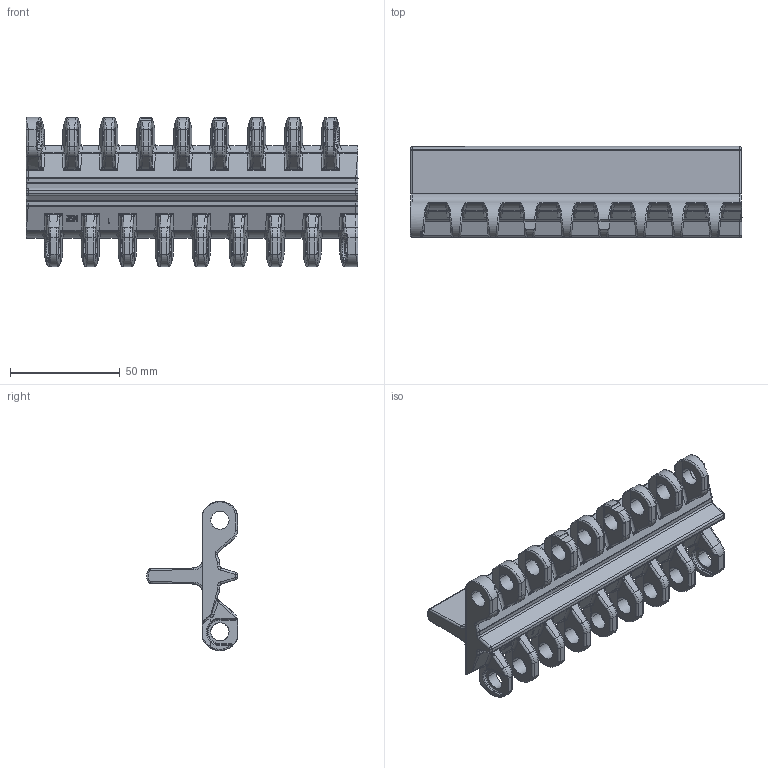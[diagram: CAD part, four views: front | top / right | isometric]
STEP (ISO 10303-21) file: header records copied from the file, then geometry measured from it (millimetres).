
FILE_DESCRIPTION((''),'2;1');
FILE_NAME('P267','2009-08-28T',('jas'),(''),'PRO/ENGINEER BY PARAMETRIC TECHNOLOGY CORPORATION, 2008490','PRO/ENGINEER BY PARAMETRIC TECHNOLOGY CORPORATION, 2008490','');
FILE_SCHEMA(('AUTOMOTIVE_DESIGN { 1 0 10303 214 1 1 1 1 }'));
Products named in the file (1): P267
Bounding box: 151 x 41.39 x 67.79 mm (x, y, z)
Volume: 93046.3 mm3; surface area: 36145.4 mm2
Topology: 1 solids, 1 shells, 1509 faces, 3951 edges, 2434 vertices
Faces by surface type: bspline 711, cylinder 404, plane 368, torus 14, sphere 12
Entity records: 132322 total; most frequent: CARTESIAN_POINT 101393, ORIENTED_EDGE 7902, DIRECTION 4390, EDGE_CURVE 3951, VERTEX_POINT 2434, B_SPLINE_CURVE_WITH_KNOTS 1874, EDGE_LOOP 1535, AXIS2_PLACEMENT_3D 1515
